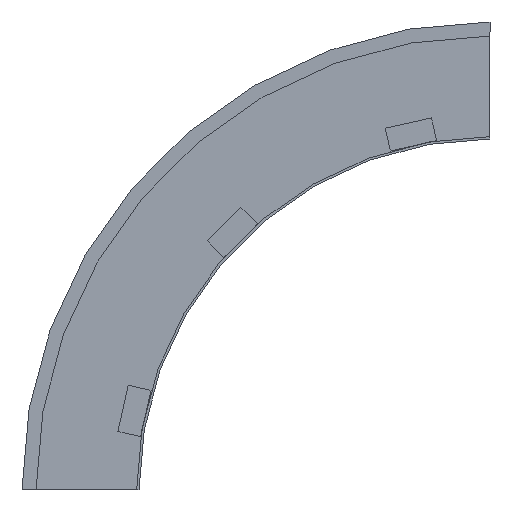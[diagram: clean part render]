
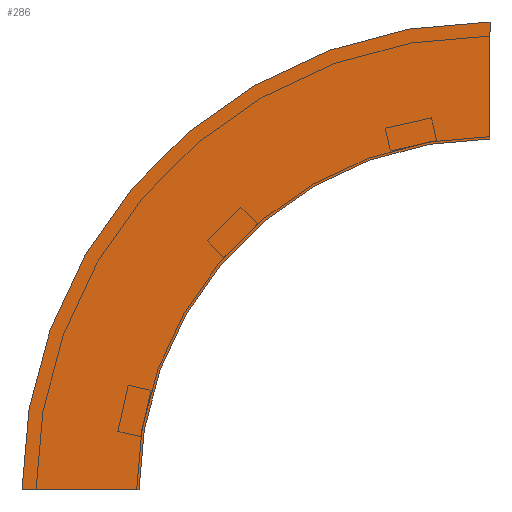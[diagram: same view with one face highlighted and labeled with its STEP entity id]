
A CAD part, left-side view. The second image highlights one B-rep face of the part: STEP entity #286.
In plain terms, the highlighted planar face has unit normal (-1, 0, 0) as drawn and (1, 0, 0) by its records, which use the part's own axes.
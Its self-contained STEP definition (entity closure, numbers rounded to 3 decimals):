
#11 = CARTESIAN_POINT ( 'NONE',  ( 0., -300., 0. ) ) ;
#54 = CARTESIAN_POINT ( 'NONE',  ( 0., 0., 0. ) ) ;
#68 = DIRECTION ( 'NONE',  ( 0., 1., 0. ) ) ;
#85 = CARTESIAN_POINT ( 'NONE',  ( 0., -300., 300. ) ) ;
#98 = CARTESIAN_POINT ( 'NONE',  ( 0., -300., 0. ) ) ;
#110 = VERTEX_POINT ( 'NONE', #309 ) ;
#168 = AXIS2_PLACEMENT_3D ( 'NONE', #98, #377, #243 ) ;
#194 = EDGE_CURVE ( 'NONE', #572, #110, #550, .T. ) ;
#195 = DIRECTION ( 'NONE',  ( 0., 0., 1. ) ) ;
#199 = DIRECTION ( 'NONE',  ( 0., 1., 0. ) ) ;
#203 = VECTOR ( 'NONE', #68, 1000. ) ;
#207 = CARTESIAN_POINT ( 'NONE',  ( 0., 100., 0. ) ) ;
#237 = DIRECTION ( 'NONE',  ( 1., 0., 0. ) ) ;
#238 = ORIENTED_EDGE ( 'NONE', *, *, #251, .T. ) ;
#240 = DIRECTION ( 'NONE',  ( 1., 0., 0. ) ) ;
#243 = DIRECTION ( 'NONE',  ( 0., 1., 0. ) ) ;
#251 = EDGE_CURVE ( 'NONE', #459, #110, #442, .T. ) ;
#255 = LINE ( 'NONE', #429, #203 ) ;
#271 = EDGE_CURVE ( 'NONE', #502, #572, #505, .T. ) ;
#274 = DIRECTION ( 'NONE',  ( 0., 0., -1. ) ) ;
#278 = FACE_OUTER_BOUND ( 'NONE', #498, .T. ) ;
#286 = ADVANCED_FACE ( 'NONE', ( #278 ), #311, .T. ) ;
#308 = AXIS2_PLACEMENT_3D ( 'NONE', #54, #237, #274 ) ;
#309 = CARTESIAN_POINT ( 'NONE',  ( 0., -300., 400. ) ) ;
#311 = PLANE ( 'NONE',  #308 ) ;
#331 = AXIS2_PLACEMENT_3D ( 'NONE', #11, #240, #199 ) ;
#335 = CARTESIAN_POINT ( 'NONE',  ( 0., 0., 0. ) ) ;
#369 = CARTESIAN_POINT ( 'NONE',  ( 0., -300., 300. ) ) ;
#377 = DIRECTION ( 'NONE',  ( 1., 0., 0. ) ) ;
#416 = ORIENTED_EDGE ( 'NONE', *, *, #194, .F. ) ;
#429 = CARTESIAN_POINT ( 'NONE',  ( 0., 0., 0. ) ) ;
#442 = CIRCLE ( 'NONE', #168, 400. ) ;
#451 = VECTOR ( 'NONE', #195, 1000. ) ;
#453 = ORIENTED_EDGE ( 'NONE', *, *, #473, .T. ) ;
#459 = VERTEX_POINT ( 'NONE', #207 ) ;
#473 = EDGE_CURVE ( 'NONE', #502, #459, #255, .T. ) ;
#498 = EDGE_LOOP ( 'NONE', ( #238, #416, #499, #453 ) ) ;
#499 = ORIENTED_EDGE ( 'NONE', *, *, #271, .F. ) ;
#502 = VERTEX_POINT ( 'NONE', #335 ) ;
#505 = CIRCLE ( 'NONE', #331, 300. ) ;
#550 = LINE ( 'NONE', #369, #451 ) ;
#572 = VERTEX_POINT ( 'NONE', #85 ) ;
